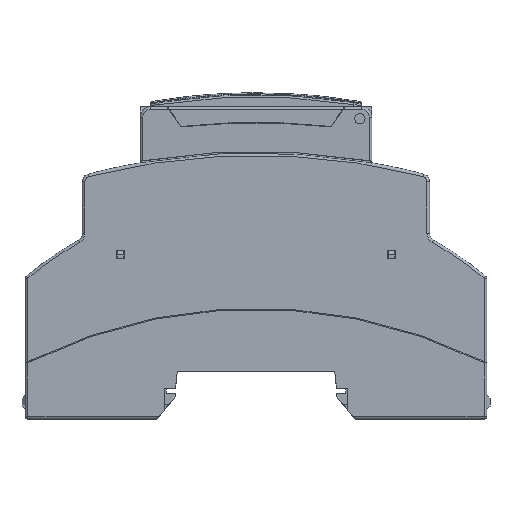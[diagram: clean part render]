
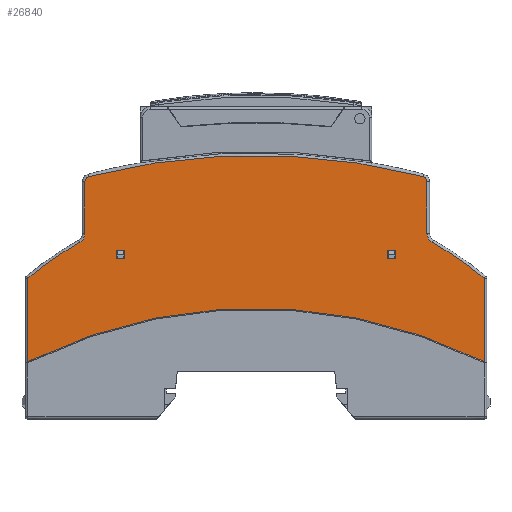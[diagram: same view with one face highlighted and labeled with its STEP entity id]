
A CAD part, left-side view. The second image highlights one B-rep face of the part: STEP entity #26840.
In plain terms, the highlighted planar face has unit normal (-1, 0, 0) as drawn and (1, 0, 0) by its records, which use the part's own axes.
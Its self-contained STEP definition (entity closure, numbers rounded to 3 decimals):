
#594=FACE_BOUND('',#3691,.T.);
#595=FACE_BOUND('',#3692,.T.);
#1124=CIRCLE('',#28359,129.2);
#1168=CIRCLE('',#28450,99.5);
#1210=CIRCLE('',#28589,69.5);
#1212=CIRCLE('',#28594,2.);
#1231=CIRCLE('',#28679,1.);
#1233=CIRCLE('',#28682,2.);
#1235=CIRCLE('',#28685,69.5);
#1249=CIRCLE('',#28731,1.);
#2203=FACE_OUTER_BOUND('',#3690,.T.);
#3690=EDGE_LOOP('',(#20601,#20602,#20603,#20604,#20605,#20606,#20607,#20608,
#20609,#20610,#20611,#20612));
#3691=EDGE_LOOP('',(#20613,#20614,#20615,#20616));
#3692=EDGE_LOOP('',(#20617,#20618,#20619,#20620));
#5435=LINE('',#39547,#8541);
#5897=LINE('',#40888,#9003);
#5973=LINE('',#41155,#9079);
#5976=LINE('',#41160,#9082);
#5978=LINE('',#41164,#9084);
#5979=LINE('',#41166,#9085);
#5988=LINE('',#41188,#9094);
#6036=LINE('',#41319,#9142);
#6037=LINE('',#41323,#9143);
#6038=LINE('',#41325,#9144);
#6039=LINE('',#41327,#9145);
#6040=LINE('',#41328,#9146);
#8541=VECTOR('',#31811,1.);
#9003=VECTOR('',#32735,1.);
#9079=VECTOR('',#32911,1.);
#9082=VECTOR('',#32916,1.);
#9084=VECTOR('',#32920,1.);
#9085=VECTOR('',#32923,1.);
#9094=VECTOR('',#32948,1.);
#9142=VECTOR('',#33104,1.);
#9143=VECTOR('',#33107,1.);
#9144=VECTOR('',#33108,1.);
#9145=VECTOR('',#33109,1.);
#9146=VECTOR('',#33110,1.);
#11457=VERTEX_POINT('',#39389);
#11458=VERTEX_POINT('',#39391);
#11504=VERTEX_POINT('',#39544);
#11505=VERTEX_POINT('',#39546);
#11675=VERTEX_POINT('',#39946);
#11676=VERTEX_POINT('',#39996);
#11865=VERTEX_POINT('',#40753);
#11867=VERTEX_POINT('',#40761);
#11886=VERTEX_POINT('',#40887);
#11931=VERTEX_POINT('',#41152);
#11932=VERTEX_POINT('',#41154);
#11933=VERTEX_POINT('',#41158);
#11934=VERTEX_POINT('',#41162);
#11938=VERTEX_POINT('',#41185);
#11939=VERTEX_POINT('',#41187);
#11940=VERTEX_POINT('',#41193);
#11969=VERTEX_POINT('',#41321);
#11970=VERTEX_POINT('',#41322);
#11971=VERTEX_POINT('',#41324);
#11972=VERTEX_POINT('',#41326);
#14353=EDGE_CURVE('',#11458,#11457,#1124,.T.);
#14403=EDGE_CURVE('',#11504,#11505,#5435,.T.);
#14599=EDGE_CURVE('',#11676,#11675,#1168,.T.);
#14914=EDGE_CURVE('',#11865,#11867,#1210,.T.);
#14921=EDGE_CURVE('',#11505,#11867,#1212,.T.);
#14952=EDGE_CURVE('',#11676,#11886,#5897,.T.);
#15040=EDGE_CURVE('',#11932,#11931,#5973,.T.);
#15043=EDGE_CURVE('',#11933,#11932,#5976,.T.);
#15045=EDGE_CURVE('',#11931,#11934,#5978,.T.);
#15046=EDGE_CURVE('',#11934,#11933,#5979,.T.);
#15058=EDGE_CURVE('',#11939,#11938,#5988,.T.);
#15060=EDGE_CURVE('',#11457,#11939,#1231,.T.);
#15062=EDGE_CURVE('',#11938,#11940,#1233,.T.);
#15064=EDGE_CURVE('',#11886,#11940,#1235,.T.);
#15125=EDGE_CURVE('',#11675,#11865,#6036,.T.);
#15126=EDGE_CURVE('',#11458,#11504,#1249,.T.);
#15127=EDGE_CURVE('',#11969,#11970,#6037,.T.);
#15128=EDGE_CURVE('',#11971,#11969,#6038,.T.);
#15129=EDGE_CURVE('',#11971,#11972,#6039,.T.);
#15130=EDGE_CURVE('',#11972,#11970,#6040,.T.);
#20601=ORIENTED_EDGE('',*,*,#14353,.T.);
#20602=ORIENTED_EDGE('',*,*,#15060,.T.);
#20603=ORIENTED_EDGE('',*,*,#15058,.T.);
#20604=ORIENTED_EDGE('',*,*,#15062,.T.);
#20605=ORIENTED_EDGE('',*,*,#15064,.F.);
#20606=ORIENTED_EDGE('',*,*,#14952,.F.);
#20607=ORIENTED_EDGE('',*,*,#14599,.T.);
#20608=ORIENTED_EDGE('',*,*,#15125,.T.);
#20609=ORIENTED_EDGE('',*,*,#14914,.T.);
#20610=ORIENTED_EDGE('',*,*,#14921,.F.);
#20611=ORIENTED_EDGE('',*,*,#14403,.F.);
#20612=ORIENTED_EDGE('',*,*,#15126,.F.);
#20613=ORIENTED_EDGE('',*,*,#15045,.T.);
#20614=ORIENTED_EDGE('',*,*,#15046,.T.);
#20615=ORIENTED_EDGE('',*,*,#15043,.T.);
#20616=ORIENTED_EDGE('',*,*,#15040,.T.);
#20617=ORIENTED_EDGE('',*,*,#15127,.F.);
#20618=ORIENTED_EDGE('',*,*,#15128,.F.);
#20619=ORIENTED_EDGE('',*,*,#15129,.T.);
#20620=ORIENTED_EDGE('',*,*,#15130,.T.);
#25678=PLANE('',#28730);
#26840=ADVANCED_FACE('',(#2203,#594,#595),#25678,.F.);
#28359=AXIS2_PLACEMENT_3D('',#39392,#31727,#31728);
#28450=AXIS2_PLACEMENT_3D('',#39997,#32106,#32107);
#28589=AXIS2_PLACEMENT_3D('',#40764,#32651,#32652);
#28594=AXIS2_PLACEMENT_3D('',#40777,#32666,#32667);
#28679=AXIS2_PLACEMENT_3D('',#41191,#32953,#32954);
#28682=AXIS2_PLACEMENT_3D('',#41195,#32959,#32960);
#28685=AXIS2_PLACEMENT_3D('',#41198,#32965,#32966);
#28730=AXIS2_PLACEMENT_3D('',#41318,#33102,#33103);
#28731=AXIS2_PLACEMENT_3D('',#41320,#33105,#33106);
#31727=DIRECTION('center_axis',(1.,0.,0.));
#31728=DIRECTION('ref_axis',(0.,-1.,0.));
#31811=DIRECTION('',(0.,0.,-1.));
#32106=DIRECTION('center_axis',(-1.,0.,0.));
#32107=DIRECTION('ref_axis',(0.,-1.,0.));
#32651=DIRECTION('center_axis',(1.,0.,0.));
#32652=DIRECTION('ref_axis',(0.,-1.,0.));
#32666=DIRECTION('center_axis',(1.,0.,0.));
#32667=DIRECTION('ref_axis',(0.,-1.,0.));
#32735=DIRECTION('',(0.,0.,1.));
#32911=DIRECTION('',(0.,0.,-1.));
#32916=DIRECTION('',(0.,1.,0.));
#32920=DIRECTION('',(0.,-1.,0.));
#32923=DIRECTION('',(0.,0.,1.));
#32948=DIRECTION('',(0.,0.,-1.));
#32953=DIRECTION('center_axis',(1.,0.,0.));
#32954=DIRECTION('ref_axis',(0.,-1.,0.));
#32959=DIRECTION('center_axis',(-1.,0.,0.));
#32960=DIRECTION('ref_axis',(0.,1.,0.));
#32965=DIRECTION('center_axis',(-1.,0.,0.));
#32966=DIRECTION('ref_axis',(0.,1.,0.));
#33102=DIRECTION('center_axis',(-1.,0.,0.));
#33103=DIRECTION('ref_axis',(0.,0.,1.));
#33104=DIRECTION('',(0.,0.,1.));
#33105=DIRECTION('center_axis',(-1.,0.,0.));
#33106=DIRECTION('ref_axis',(0.,1.,0.));
#33107=DIRECTION('',(0.,0.,-1.));
#33108=DIRECTION('',(0.,-1.,0.));
#33109=DIRECTION('',(0.,0.,-1.));
#33110=DIRECTION('',(0.,-1.,0.));
#39389=CARTESIAN_POINT('',(18.,-32.502,41.145));
#39391=CARTESIAN_POINT('',(18.,32.502,41.145));
#39392=CARTESIAN_POINT('Origin',(18.,0.,
-83.9));
#39544=CARTESIAN_POINT('',(18.,33.25,40.177));
#39546=CARTESIAN_POINT('',(18.,33.25,30.107));
#39547=CARTESIAN_POINT('',(18.,33.25,-3.25));
#39946=CARTESIAN_POINT('',(18.,44.35,5.169));
#39996=CARTESIAN_POINT('',(18.,-44.35,5.169));
#39997=CARTESIAN_POINT('Origin',(18.,0.,
-83.9));
#40753=CARTESIAN_POINT('',(18.,44.35,21.41));
#40761=CARTESIAN_POINT('',(18.,34.264,28.367));
#40764=CARTESIAN_POINT('Origin',(18.,0.,
-32.1));
#40777=CARTESIAN_POINT('Origin',(18.,35.25,30.107));
#40887=CARTESIAN_POINT('',(18.,-44.35,21.41));
#40888=CARTESIAN_POINT('',(18.,-44.35,-3.25));
#41152=CARTESIAN_POINT('',(18.,-25.65,25.15));
#41154=CARTESIAN_POINT('',(18.,-25.65,26.85));
#41155=CARTESIAN_POINT('',(18.,-25.65,-3.25));
#41158=CARTESIAN_POINT('',(18.,-27.05,26.85));
#41160=CARTESIAN_POINT('',(18.,5.5,26.85));
#41162=CARTESIAN_POINT('',(18.,-27.05,25.15));
#41164=CARTESIAN_POINT('',(18.,5.5,25.15));
#41166=CARTESIAN_POINT('',(18.,-27.05,-3.25));
#41185=CARTESIAN_POINT('',(18.,-33.25,30.107));
#41187=CARTESIAN_POINT('',(18.,-33.25,40.177));
#41188=CARTESIAN_POINT('',(18.,-33.25,-3.25));
#41191=CARTESIAN_POINT('Origin',(18.,-32.25,40.177));
#41193=CARTESIAN_POINT('',(18.,-34.264,28.367));
#41195=CARTESIAN_POINT('Origin',(18.,-35.25,30.107));
#41198=CARTESIAN_POINT('Origin',(18.,0.,
-32.1));
#41318=CARTESIAN_POINT('Origin',(18.,37.584,24.51));
#41319=CARTESIAN_POINT('',(18.,44.35,-3.25));
#41320=CARTESIAN_POINT('Origin',(18.,32.25,40.177));
#41321=CARTESIAN_POINT('',(18.,25.65,26.85));
#41322=CARTESIAN_POINT('',(18.,25.65,25.15));
#41323=CARTESIAN_POINT('',(18.,25.65,-3.25));
#41324=CARTESIAN_POINT('',(18.,27.05,26.85));
#41325=CARTESIAN_POINT('',(18.,5.5,26.85));
#41326=CARTESIAN_POINT('',(18.,27.05,25.15));
#41327=CARTESIAN_POINT('',(18.,27.05,-3.25));
#41328=CARTESIAN_POINT('',(18.,5.5,25.15));
